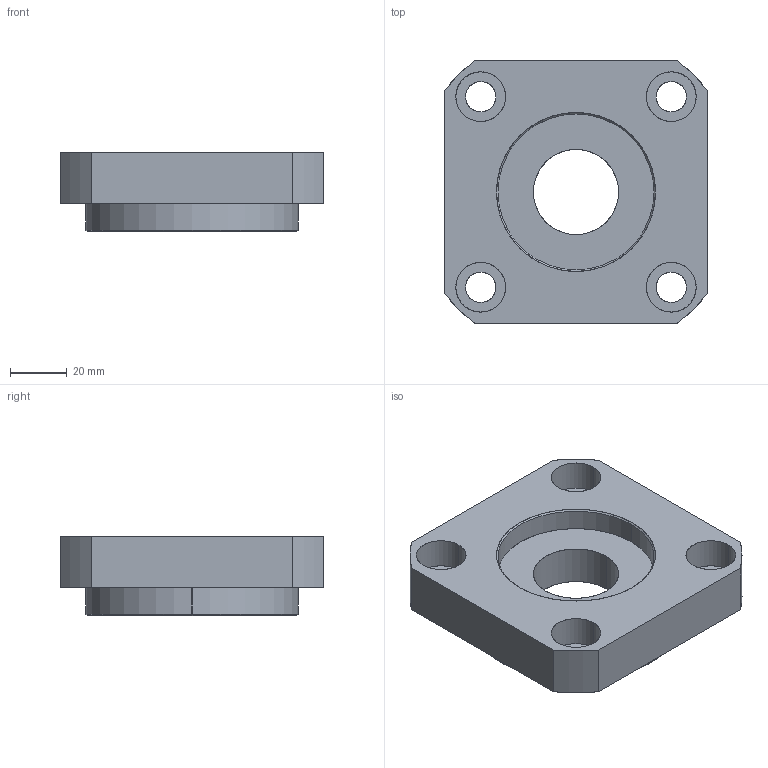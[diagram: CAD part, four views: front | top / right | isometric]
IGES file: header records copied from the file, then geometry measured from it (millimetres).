
Start section: SolidWorks IGES file using analytic representation for surfaces
Global section: file name: E:\同创达图纸\产品示意图\3D选型图\支撑座\FF系列\FF30.IGS; native system: SolidWorks 2012; preprocessor: SolidWorks 2012; author: gao; date: 130702.203831; units: millimetre
Bounding box: 93 x 93 x 28 mm (x, y, z)
Surface area: 30227 mm2 (no closed solid volume)
Topology: 0 solids, 0 shells, 47 faces, 1200 edges, 1200 vertices
Faces by surface type: revolution 34, bspline 13
